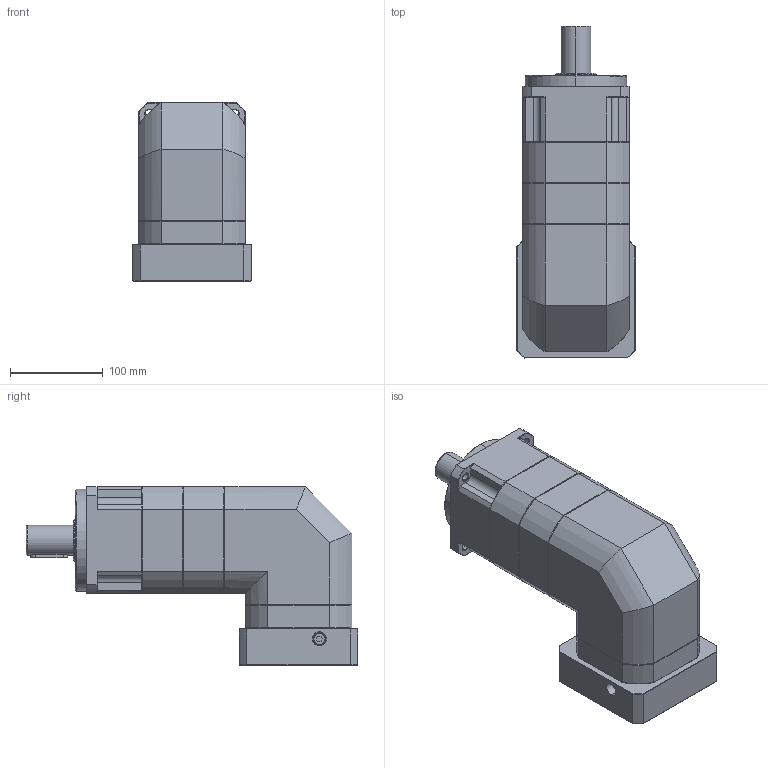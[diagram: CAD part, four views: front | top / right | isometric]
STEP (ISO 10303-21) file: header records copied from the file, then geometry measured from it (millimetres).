
FILE_DESCRIPTION (( 'STEP AP214' ), '1' );
FILE_NAME ('ZPBR115-D32-L3-P1-19-110-145-M8.step', '2024-06-29T08:09:27', ( 'Windows 蚚誧' ), ( 'Organization' ), 'SwSTEP 2.0', 'SolidWorks 2016', '' );
FILE_SCHEMA (( 'AUTOMOTIVE_DESIGN' ));
Length unit declared in the file: millimetre
Products named in the file (1): ZPBR115-D32-L3-P1-19-110-145-M8
Bounding box: 128 x 358 x 192.2 mm (x, y, z)
Surface area: 230962.3 mm2 (no closed solid volume)
Topology: 0 solids, 29 shells, 1868 faces, 5009 edges, 3201 vertices
Faces by surface type: plane 953, bspline 381, cone 294, cylinder 240
Full cylindrical faces by diameter (mm): 10.2 x1
Entity records: 100534 total; most frequent: CARTESIAN_POINT 49558, ORIENTED_EDGE 9988, DIRECTION 7684, EDGE_CURVE 5003, VECTOR 3220, LINE 3220, VERTEX_POINT 3199, AXIS2_PLACEMENT_3D 2232
